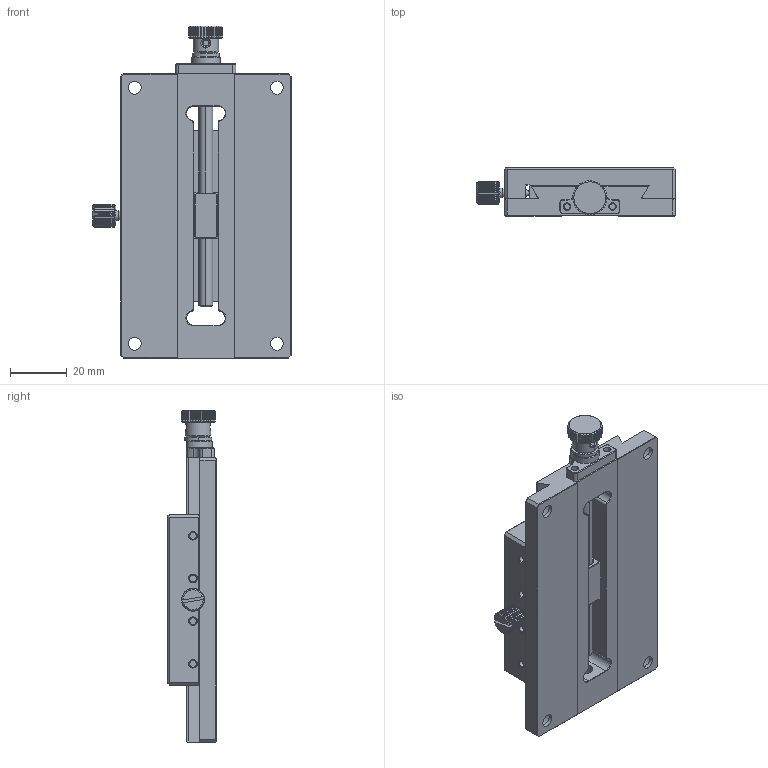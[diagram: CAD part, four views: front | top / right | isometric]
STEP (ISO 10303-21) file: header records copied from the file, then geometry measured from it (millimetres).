
FILE_DESCRIPTION((''),'2;1');
FILE_NAME('ASSY-60-L-100_ASM','2021-06-29T18:41:26',('windows10'),(''),'CREO PARAMETRIC BY PTC INC, 2018260','CREO PARAMETRIC BY PTC INC, 2018260','');
FILE_SCHEMA(('CONFIG_CONTROL_DESIGN'));
Length unit declared in the file: millimetre
Products named in the file (11): BOTTOM-60-100-17-M; TOP-60-60-17; COUPLER-M5-100; MOVING-SCREW-M5-95D5; E-RING-3-7; HOLDER-HANDLE; WHASHER; HANDLE-12-9D5; BALL-2D381; STOPPER-8-M3-16; ASSY-60-L-100_ASM
Assembly tree (10 placements, depth 2):
  ASSY-60-L-100_ASM
    BOTTOM-60-100-17-M
    TOP-60-60-17
    COUPLER-M5-100
    MOVING-SCREW-M5-95D5
    E-RING-3-7
    HOLDER-HANDLE
    WHASHER
    HANDLE-12-9D5
    BALL-2D381
    STOPPER-8-M3-16
Bounding box: 69.74 x 16.9 x 116.7 mm (x, y, z)
Volume: 74583 mm3; surface area: 33369.1 mm2
Topology: 10 solids, 10 shells, 1789 faces, 4841 edges, 3112 vertices
Faces by surface type: plane 1367, cylinder 227, cone 189, bspline 4, sphere 2
Entity records: 56777 total; most frequent: CARTESIAN_POINT 11598, ORIENTED_EDGE 9674, DIRECTION 8788, EDGE_CURVE 4837, VECTOR 3906, LINE 3906, VERTEX_POINT 3112, AXIS2_PLACEMENT_3D 2441
